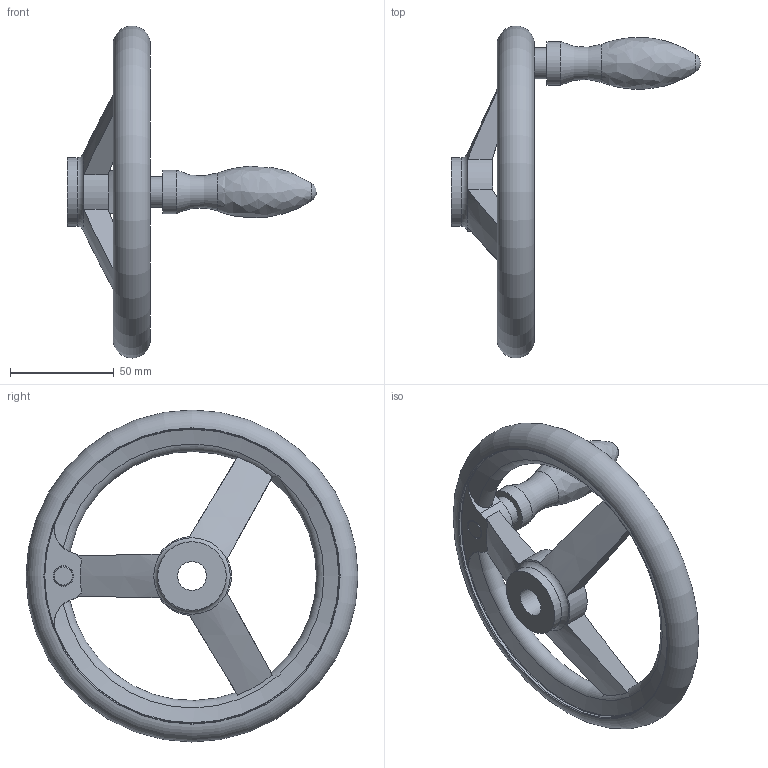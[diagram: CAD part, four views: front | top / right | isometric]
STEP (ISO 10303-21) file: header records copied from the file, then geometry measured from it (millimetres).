
FILE_DESCRIPTION( ( 'STEP AP203' ), '1' );
FILE_NAME( 'C:/Temp/Ganter_Step_05_03_2020/data/1_3/din_950/din_950_b/din_950_b_d/Handwheel DIN 950-GG-160-B14-D.stp', '2020-03-05T10:29:41', ( 'License CC BY-ND 4.0' ), ( 'CADENAS' ), ' ', 'PARTsolutions', ' ' );
FILE_SCHEMA( ( 'CONFIG_CONTROL_DESIGN' ) );
Length unit declared in the file: millimetre
Products named in the file (1): _Handwheel DIN 950-GG-160-B14-D
Bounding box: 120 x 159.98 x 159.98 mm (x, y, z)
Volume: 176435.7 mm3; surface area: 44020 mm2
Topology: 1 solids, 1 shells, 44 faces, 119 edges, 75 vertices
Faces by surface type: cylinder 13, plane 12, torus 11, cone 6, bspline 1, sphere 1
Full cylindrical faces by diameter (mm): 14 x1, 15 x1, 21 x1, 33 x2, 142 x2
Entity records: 1625 total; most frequent: CARTESIAN_POINT 606, DIRECTION 196, ORIENTED_EDGE 184, AXIS2_PLACEMENT_3D 93, EDGE_CURVE 92, EDGE_LOOP 71, VERTEX_POINT 71, FACE_OUTER_BOUND 60
